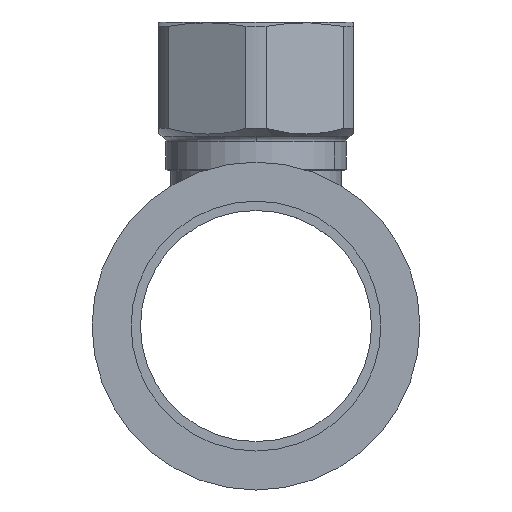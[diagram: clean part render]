
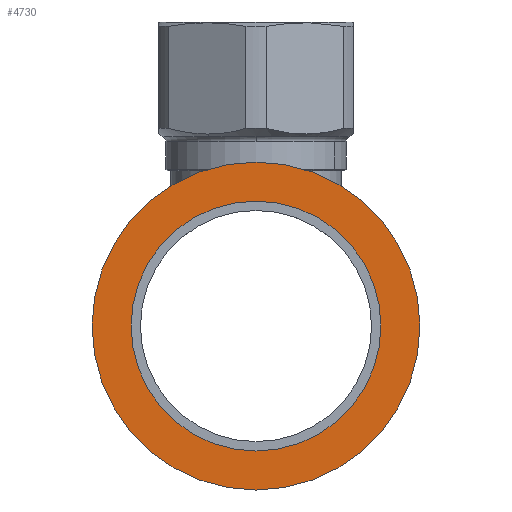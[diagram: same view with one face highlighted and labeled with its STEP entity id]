
A CAD part, left-side view. The second image highlights one B-rep face of the part: STEP entity #4730.
In plain terms, the highlighted planar face has unit normal (-1, 0, 0).
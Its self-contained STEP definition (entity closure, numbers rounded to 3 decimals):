
#460=CARTESIAN_POINT('',(36.11,56.,0.));
#470=VERTEX_POINT('',#460);
#500=CARTESIAN_POINT('',(36.11,38.7,0.));
#510=DIRECTION('',(-1.,0.,0.));
#520=DIRECTION('',(0.,1.,0.));
#530=AXIS2_PLACEMENT_3D('',#500,#510,#520);
#540=CIRCLE('',#530,17.3);
#550=CARTESIAN_POINT('',(36.11,21.4,0.))
;
#560=VERTEX_POINT('',#550);
#570=EDGE_CURVE('',#560,#470,#540,.T.);
#4480=CARTESIAN_POINT('',(36.11,17.7,0.));
#4490=DIRECTION('',(-1.,0.,0.));
#4500=DIRECTION('',(0.,-1.,0.));
#4510=AXIS2_PLACEMENT_3D('',#4480,#4490,#4500);
#4520=PLANE('',#4510);
#4530=EDGE_CURVE('',#470,#560,#540,.T.);
#4540=ORIENTED_EDGE('',*,*,#4530,.F.);
#4550=ORIENTED_EDGE('',*,*,#570,.F.);
#4560=EDGE_LOOP('',(#4550,#4540));
#4570=FACE_BOUND('',#4560,.T.);
#4580=CARTESIAN_POINT('',(36.11,38.7,0.));
#4590=DIRECTION('',(-1.,0.,0.));
#4600=DIRECTION('',(0.,1.,0.));
#4610=AXIS2_PLACEMENT_3D('',#4580,#4590,#4600);
#4620=CIRCLE('',#4610,22.7);
#4630=CARTESIAN_POINT('',(36.11,61.4,0.));
#4640=VERTEX_POINT('',#4630);
#4650=CARTESIAN_POINT('',(36.11,16.,0.)
);
#4660=VERTEX_POINT('',#4650);
#4670=EDGE_CURVE('',#4640,#4660,#4620,.T.);
#4680=ORIENTED_EDGE('',*,*,#4670,.T.);
#4690=EDGE_CURVE('',#4660,#4640,#4620,.T.);
#4700=ORIENTED_EDGE('',*,*,#4690,.T.);
#4710=EDGE_LOOP('',(#4700,#4680));
#4720=FACE_OUTER_BOUND('',#4710,.T.);
#4730=ADVANCED_FACE('',(#4570,#4720),#4520,.T.);
